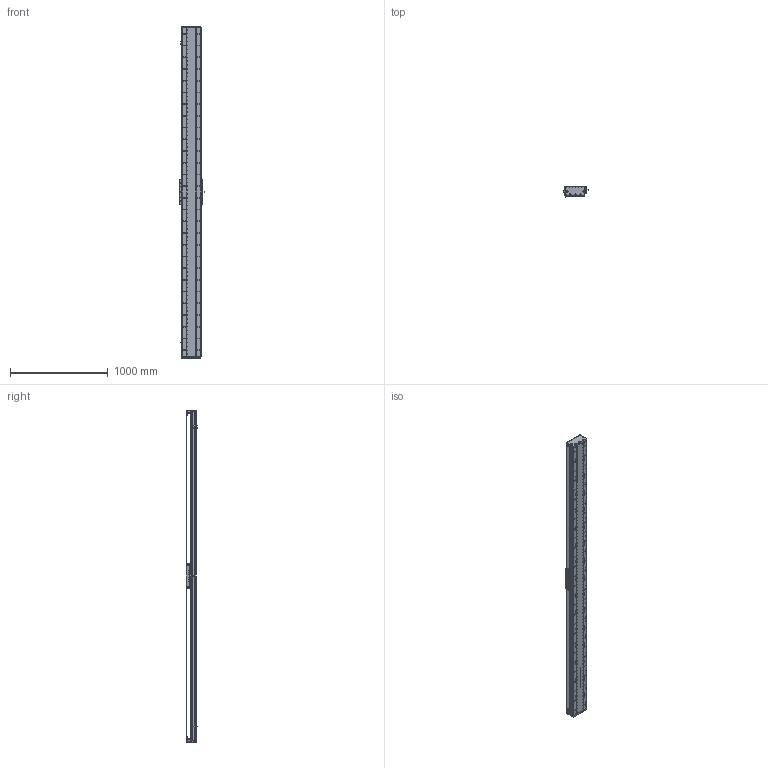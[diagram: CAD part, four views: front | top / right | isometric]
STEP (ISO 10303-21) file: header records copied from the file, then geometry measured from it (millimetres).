
FILE_DESCRIPTION (( 'STEP AP203' ), '1' );
FILE_NAME ('DA-C195-C3-T3060-C010-0.2 眻盄萇儂.STEP', '2025-08-15T01:28:23', ( '' ), ( '' ), 'SwSTEP 2.0', 'SolidWorks 2019', '' );
FILE_SCHEMA (( 'CONFIG_CONTROL_DESIGN' ));
Length unit declared in the file: millimetre
Products named in the file (15): DA195詩湍郪璃; PM-T45ㄗ侂狟ㄘ; LMT黍杅芛; DA95-HXJ-00 遣喳砎蝶; IU-CU195-L-00 菁釱(L3360); CU195-C3賑輸-俋楷; 葩璃 DA95-GT-T-00; DA-C195-GD-DB-H-00 傷啣; MS200 棠掑喜S315-T240; DA195詩湍裔啣; DA195詩湍嶺輸; IU-CU195-L 菁釱絳寢; DA195詩湍菜輸; DA-C195-C3-T3060-C010-0.2 眻盄萇儂; DA165-GYP-00 光电感应片(默认)
Assembly tree (29 placements, depth 3):
  DA-C195-C3-T3060-C010-0.2 眻盄萇儂
    DA195詩湍郪璃
      DA195詩湍菜輸  x2
      DA195詩湍裔啣
      DA195詩湍嶺輸  x2
      DA95-HXJ-00 遣喳砎蝶  x8
      DA-C195-GD-DB-H-00 傷啣  x2
    IU-CU195-L 菁釱絳寢
      IU-CU195-L-00 菁釱(L3360)
      葩璃 DA95-GT-T-00  x4
    LMT黍杅芛
    MS200 棠掑喜S315-T240
    PM-T45ㄗ侂狟ㄘ  x3
    DA165-GYP-00 光电感应片(默认)
    CU195-C3賑輸-俋楷
Bounding box: 248 x 115.45 x 3400 mm (x, y, z)
Volume: 19357631.3 mm3; surface area: 5740989.6 mm2
Topology: 86 solids, 118 shells, 4644 faces, 13383 edges, 8481 vertices
Faces by surface type: cylinder 2666, plane 1376, cone 514, torus 52, sphere 36
Entity records: 155601 total; most frequent: CARTESIAN_POINT 44100, ORIENTED_EDGE 23682, DIRECTION 22222, EDGE_CURVE 11841, AXIS2_PLACEMENT_3D 8365, VERTEX_POINT 7683, VECTOR 5492, LINE 5492
